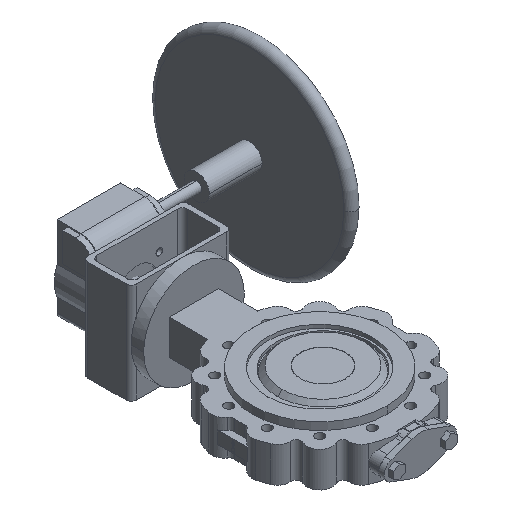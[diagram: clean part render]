
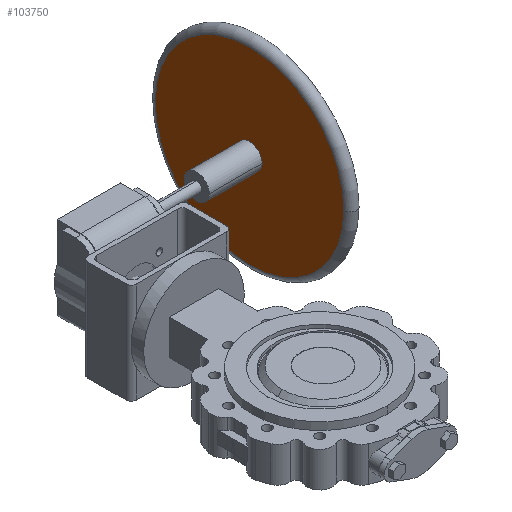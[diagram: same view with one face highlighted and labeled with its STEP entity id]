
A CAD part, isometric view. The second image highlights one B-rep face of the part: STEP entity #103750.
In plain terms, the highlighted planar face has unit normal (-1, 0, 0).
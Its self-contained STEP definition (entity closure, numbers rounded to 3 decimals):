
#90810=CARTESIAN_POINT('',(272.,224.,71.));
#90820=VERTEX_POINT('',#90810);
#90990=CARTESIAN_POINT('',(272.,599.,71.));
#91000=VERTEX_POINT('',#90990);
#91030=CARTESIAN_POINT('',(272.,411.5,71.));
#91040=DIRECTION('',(1.,0.,0.));
#91050=DIRECTION('',(0.,-1.,0.));
#91060=AXIS2_PLACEMENT_3D('',#91030,#91040,#91050);
#91070=CIRCLE('',#91060,187.5);
#91080=EDGE_CURVE('',#90820,#91000,#91070,.T.);
#93200=CARTESIAN_POINT('',(272.,386.5,71.));
#93210=VERTEX_POINT('',#93200);
#93260=CARTESIAN_POINT('',(272.,411.5,71.));
#93270=DIRECTION('',(1.,0.,0.));
#93280=DIRECTION('',(0.,1.,0.));
#93290=AXIS2_PLACEMENT_3D('',#93260,#93270,#93280);
#93300=CIRCLE('',#93290,25.);
#93310=CARTESIAN_POINT('',(272.,436.5,71.));
#93320=VERTEX_POINT('',#93310);
#93330=EDGE_CURVE('',#93210,#93320,#93300,.T.);
#103600=CARTESIAN_POINT('',(272.,517.75,71.));
#103610=DIRECTION('',(-1.,0.,0.));
#103620=DIRECTION('',(0.,-1.,0.));
#103630=AXIS2_PLACEMENT_3D('',#103600,#103610,#103620);
#103640=PLANE('',#103630);
#103650=EDGE_CURVE('',#91000,#90820,#91070,.T.);
#103660=ORIENTED_EDGE('',*,*,#103650,.F.);
#103670=ORIENTED_EDGE('',*,*,#91080,.F.);
#103680=EDGE_LOOP('',(#103670,#103660));
#103690=FACE_OUTER_BOUND('',#103680,.T.);
#103700=ORIENTED_EDGE('',*,*,#93330,.T.);
#103710=EDGE_CURVE('',#93320,#93210,#93300,.T.);
#103720=ORIENTED_EDGE('',*,*,#103710,.T.);
#103730=EDGE_LOOP('',(#103720,#103700));
#103740=FACE_BOUND('',#103730,.T.);
#103750=ADVANCED_FACE('',(#103690,#103740),#103640,.T.);
